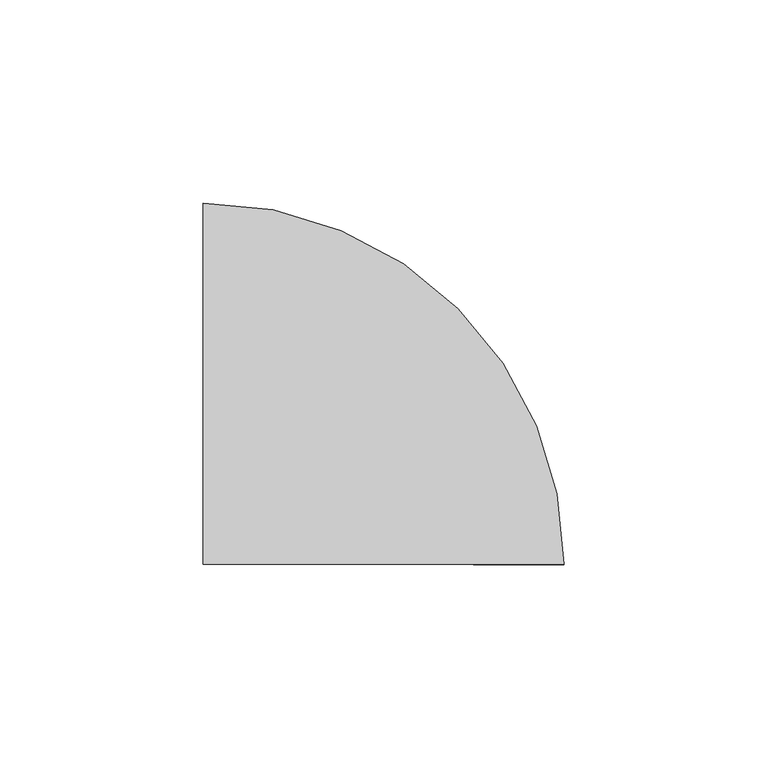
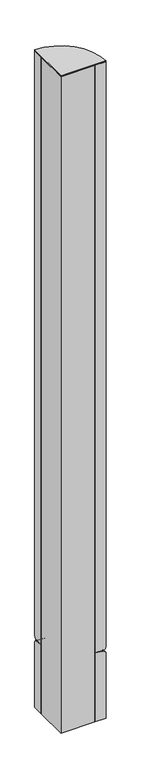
"""IFC4 building model written with IfcOpenShell, lengths in millimetres: furniture geometry."""

from ifc_helpers import new_model, si_unit, point, frame, frame_2d, origin, place, context, project, spatial, polyline, circle_curve, ellipse_curve, trimmed, segment, composite_curve, outline, extrude, source, transform, mapped, element, save
from ifc_brep_helpers import plane_surface, cylinder_surface, revolved_surface, advanced_brep


def furniture_649fbbb6(model_context):
    return source(origin(), model_context, "Body", "SolidModel", [
        extrude(outline(polyline([(-19.0499981, 30.3902108), (-9.5249951, 30.3902108), (-9.5249951, -26.7597869), (47.6250049, -26.7597869), (47.6250049, -36.2847899), (-19.0499981, -36.2847899), (-19.0499981, 30.3902108)])), frame((0.0, 0.0, 9.525), z_axis=(0.0, 0.0, 1.0), x_axis=(1.0, 0.0, 0.0)), (0.0, 0.0, 1.0), 1360.4875),
        advanced_brep(
        [(69.8500019, -36.2847899, 1370.0125), (-19.0499981, 52.6152101, 1370.0125), (-19.0499981, 30.3902108, 1370.0125), (-9.5249951, 30.3902108, 1370.0125), (-9.5249951, -26.7597869, 1370.0125), (47.6250049, -26.7597869, 1370.0125), (47.6250049, -36.2847899, 1370.0125), (47.6250049, -36.2847899, 152.4), (47.6250049, -26.7597869, 152.4), (-9.5249951, -26.7597869, 152.4), (-9.5249951, 30.3902108, 152.4), (-19.0499981, 30.3902108, 152.4), (-19.0499981, 46.6462101, 152.4), (63.8810019, -36.2847899, 152.4), (69.8500019, -36.2847899, 158.369), (-19.0499981, 52.6152101, 158.369)],
        [
            (0, 1, circle_curve(frame((-19.0499981, -36.2847899, 1370.0125), z_axis=(0.0, 0.0, 1.0), x_axis=(0.0, 1.0, 0.0)), 88.9)),
            (1, 2),
            (2, 3),
            (3, 4),
            (4, 5),
            (5, 6),
            (6, 0),
            (7, 8),
            (8, 9),
            (9, 10),
            (10, 11),
            (11, 12),
            (12, 13, circle_curve(frame((-19.0499981, -36.2847899, 152.4), z_axis=(0.0, 0.0, -1.0), x_axis=(0.0, 1.0, 0.0)), 82.931)),
            (13, 7),
            (0, 14),
            (14, 15, circle_curve(frame((-19.0499981, -36.2847899, 158.369), z_axis=(0.0, 0.0, 1.0), x_axis=(0.0, 1.0, 0.0)), 88.9)),
            (15, 1),
            (15, 12, circle_curve(frame((-19.0499981, 46.6462101, 158.369), z_axis=(-1.0, 0.0, 0.0), x_axis=(0.0, 1.0, 0.0)), 5.969)),
            (11, 2),
            (10, 3),
            (9, 4),
            (8, 5),
            (7, 6),
            (13, 14, circle_curve(frame((63.8810019, -36.2847899, 158.369), z_axis=(0.0, -1.0, 0.0), x_axis=(1.0, 0.0, 0.0)), 5.969)),
        ],
        [
            plane_surface(frame((-19.0499981, 52.6152101, 1370.0125), z_axis=(0.0, 0.0, 1.0), x_axis=(-1.0, 0.0, 0.0))),
            plane_surface(frame((-19.0499981, 52.6152101, 152.4), z_axis=(0.0, 0.0, -1.0), x_axis=(1.0, 0.0, 0.0))),
            cylinder_surface(frame((-19.0499981, -36.2847899, 152.4), z_axis=(0.0, 0.0, 1.0), x_axis=(0.0, 1.0, 0.0)), 88.9),
            plane_surface(frame((-19.0499981, 52.6152101, 1370.0125), z_axis=(-1.0, 0.0, 0.0), x_axis=(0.0, 0.0, -1.0))),
            plane_surface(frame((-19.0499981, 30.3902108, 1370.0125), z_axis=(0.0, -1.0, 0.0), x_axis=(0.0, 0.0, -1.0))),
            plane_surface(frame((-9.5249951, 30.3902108, 1370.0125), z_axis=(-1.0, 0.0, 0.0), x_axis=(0.0, 0.0, -1.0))),
            plane_surface(frame((-9.5249951, -26.7597869, 1370.0125), z_axis=(0.0, -1.0, 0.0), x_axis=(0.0, 0.0, -1.0))),
            plane_surface(frame((47.6250049, -26.7597869, 1370.0125), z_axis=(-1.0, 0.0, 0.0), x_axis=(0.0, 0.0, -1.0))),
            plane_surface(frame((47.6250049, -36.2847899, 1370.0125), z_axis=(0.0, -1.0, 0.0), x_axis=(0.0, 0.0, -1.0))),
            revolved_surface(trimmed(ellipse_curve(frame((-19.0499981, 46.6462101, 158.369), z_axis=(-1.0, 0.0, 0.0), x_axis=(0.0, 1.0, 0.0)), 5.969, 5.969), [point((-19.0499981, 52.6152101, 158.369))], [point((-19.0499981, 46.6462101, 152.4))], True, "CARTESIAN"), (-19.0499981, -36.2847899, 152.4885388), (0.0, 0.0, -1.0)),
        ],
        [
            (0, [[1, 2, 3, 4, 5, 6, 7]]),
            (1, [[8, 9, 10, 11, 12, 13, 14]]),
            (2, [[-1, 15, 16, 17]]),
            (3, [[-2, -17, 18, -12, 19]]),
            (4, [[-3, -19, -11, 20]]),
            (5, [[-4, -20, -10, 21]]),
            (6, [[-5, -21, -9, 22]]),
            (7, [[-6, -22, -8, 23]]),
            (8, [[-7, -23, -14, 24, -15]]),
            (9, [[-13, -18, -16, -24]]),
        ],
    ),
        extrude(outline(composite_curve([segment(polyline([(-19.0499981, -36.2847899), (-19.0499981, 52.6152101)]), True, "CONTINUOUS"), segment(trimmed(circle_curve(frame_2d((-19.0499981, -36.2847899)), 88.9), [point((-19.0499981, 52.6152101))], [point((69.8500019, -36.2847899))], False, "CARTESIAN"), True, "CONTINUOUS"), segment(polyline([(69.8500019, -36.2847899), (-19.0499981, -36.2847899)]), True, "CONTINUOUS")], self_intersect=False)), frame((0.0, 0.0, 1370.0125), z_axis=(0.0, 0.0, 1.0), x_axis=(1.0, 0.0, 0.0)), (0.0, 0.0, 1.0), 1.5875),
        advanced_brep(
        [(-19.0499981, 52.6152101, 9.525), (-19.0499981, 30.3902108, 9.525), (-19.0499981, 30.3902108, 152.4009559), (-19.0499981, 47.5974, 149.942786), (-19.0499981, 52.6152101, 144.1572024), (69.8500019, -36.2847899, 9.525), (69.8500019, -36.2847899, 144.1572024), (64.8321919, -36.2847899, 149.942786), (47.6250026, -36.2847899, 152.4009559), (47.6250026, -36.2847899, 9.525)],
        [
            (0, 1),
            (1, 2),
            (2, 3),
            (3, 4, circle_curve(frame((-19.0499981, 46.7708881, 144.1572024), z_axis=(-1.0, 0.0, 0.0), x_axis=(0.0, 1.0, 0.0)), 5.844322)),
            (4, 0),
            (5, 6),
            (6, 7, circle_curve(frame((64.0056799, -36.2847899, 144.1572024), z_axis=(0.0, -1.0, 0.0), x_axis=(1.0, 0.0, 0.0)), 5.844322)),
            (7, 8),
            (8, 9),
            (9, 5),
            (0, 5, circle_curve(frame((-19.0499981, -36.2847899, 9.525), z_axis=(0.0, 0.0, -1.0), x_axis=(0.0, 1.0, 0.0)), 88.9)),
            (9, 1, circle_curve(frame((-19.0499981, -36.2847899, 9.525), z_axis=(0.0, 0.0, 1.0), x_axis=(0.0, 1.0, 0.0)), 66.6750008)),
            (8, 2, circle_curve(frame((-19.0499981, -36.2847899, 152.4009559), z_axis=(0.0, 0.0, 1.0), x_axis=(0.0, 1.0, 0.0)), 66.6750008)),
            (7, 3, circle_curve(frame((-19.0499981, -36.2847899, 149.942786), z_axis=(0.0, 0.0, 1.0), x_axis=(0.0, 1.0, 0.0)), 83.88219)),
            (6, 4, circle_curve(frame((-19.0499981, -36.2847899, 144.1572024), z_axis=(0.0, 0.0, 1.0), x_axis=(0.0, 1.0, 0.0)), 88.9)),
        ],
        [
            plane_surface(frame((-19.0499981, 52.6152101, 152.4885388), z_axis=(-1.0, 0.0, 0.0), x_axis=(0.0, 0.0, 1.0))),
            plane_surface(frame((69.8500019, -36.2847899, 152.4885388), z_axis=(0.0, -1.0, 0.0), x_axis=(0.0, 0.0, 1.0))),
            plane_surface(frame((-19.0499981, -36.2847899, 9.525), z_axis=(0.0, 0.0, -1.0), x_axis=(0.0, 1.0, 0.0))),
            revolved_surface(polyline([(-19.0499981, 30.390210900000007, 9.525000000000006), (-19.0499981, 30.390210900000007, 152.4009559)]), (-19.0499981, -36.2847899, 152.4885388), (0.0, 0.0, -1.0)),
            revolved_surface(polyline([(-19.0499981, 30.3902108, 152.4009559), (-19.0499981, 47.5974, 149.942786)]), (-19.0499981, -36.2847899, 152.4885388), (0.0, 0.0, -1.0)),
            revolved_surface(trimmed(ellipse_curve(frame((-19.0499981, 46.7708881, 144.1572024), z_axis=(-1.0, 0.0, 0.0), x_axis=(0.0, 1.0, 0.0)), 5.844322, 5.844322), [point((-19.0499981, 47.5974, 149.942786))], [point((-19.0499981, 52.6152101, 144.1572024))], True, "CARTESIAN"), (-19.0499981, -36.2847899, 152.4885388), (0.0, 0.0, -1.0)),
            cylinder_surface(frame((-19.0499981, -36.2847899, 152.4885388), z_axis=(0.0, 0.0, -1.0), x_axis=(0.0, 1.0, 0.0)), 88.9),
        ],
        [
            (0, [[1, 2, 3, 4, 5]]),
            (1, [[6, 7, 8, 9, 10]]),
            (2, [[-1, 11, -10, 12]]),
            (3, [[-2, -12, -9, 13]]),
            (4, [[-3, -13, -8, 14]]),
            (5, [[-4, -14, -7, 15]]),
            (6, [[-5, -15, -6, -11]]),
        ],
    ),
    ])


if __name__ == "__main__":
    model = new_model("IFC4")
    model_context = context("Model", 3, world=origin())
    ifc_project = project(units=[si_unit("LENGTHUNIT", "METRE", prefix="MILLI")], contexts=[model_context])
    site = spatial("IfcSite", under=ifc_project)
    building = spatial("IfcBuilding", under=site)
    placement = place(None, origin())
    furniture_shape = furniture_649fbbb6(model_context)
    element("IfcFurniture", 1, ObjectType="HermanMiller_Ethospace_E1220_90DegreeConnector : Vnyl 54\"H 2-Way Rds-N", at=placement, inside=building, context=model_context, shape_type="MappedRepresentation", body=[
        mapped(furniture_shape, transform((0.0, 0.0, 0.0), x_axis=(1.0, 0.0, 0.0), y_axis=(0.0, 1.0, 0.0), z_axis=(0.0, 0.0, 1.0))),
    ])
    save(model, "model.ifc")
